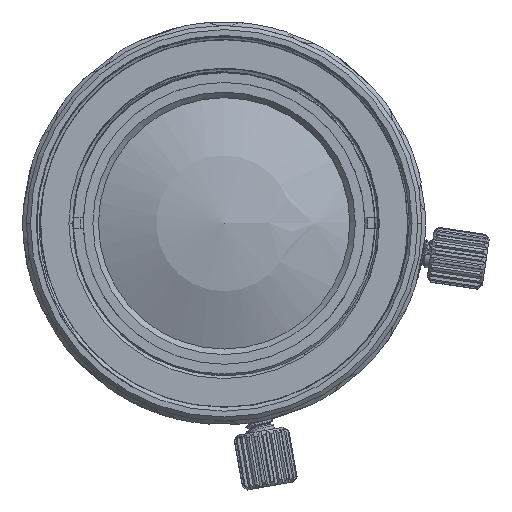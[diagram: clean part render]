
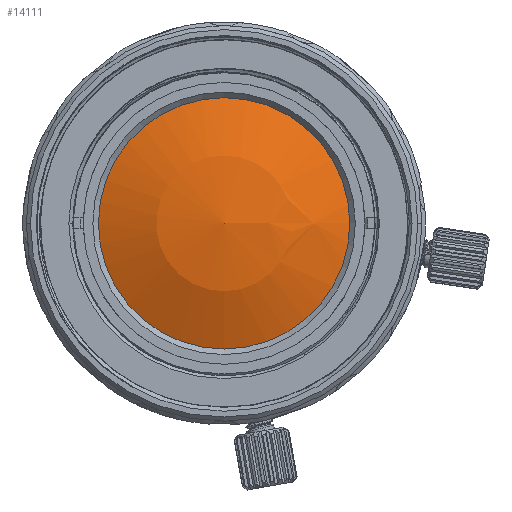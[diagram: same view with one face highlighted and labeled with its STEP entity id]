
A CAD part, left-side view. The second image highlights one B-rep face of the part: STEP entity #14111.
In plain terms, the highlighted spherical face has radius 22.136 mm.
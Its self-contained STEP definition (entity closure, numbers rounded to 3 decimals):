
#54=SPHERICAL_SURFACE('',#15426,22.136);
#7004=ORIENTED_EDGE('',*,*,#9170,.F.);
#9170=EDGE_CURVE('',#10576,#10576,#11109,.T.);
#10576=VERTEX_POINT('',#43646);
#11109=CIRCLE('',#15427,9.55);
#12035=EDGE_LOOP('',(#7004));
#12974=FACE_BOUND('',#12035,.T.);
#14111=ADVANCED_FACE('',(#12974),#54,.T.);
#15426=AXIS2_PLACEMENT_3D('',#43644,#18471,#18472);
#15427=AXIS2_PLACEMENT_3D('',#43645,#18473,#18474);
#18471=DIRECTION('',(1.,0.,0.));
#18472=DIRECTION('',(0.,-1.,0.));
#18473=DIRECTION('',(1.,0.,0.));
#18474=DIRECTION('',(0.,0.,-1.));
#43644=CARTESIAN_POINT('',(-12.843,0.,0.));
#43645=CARTESIAN_POINT('',(-32.813,0.,0.));
#43646=CARTESIAN_POINT('',(-32.813,0.,-9.55));
